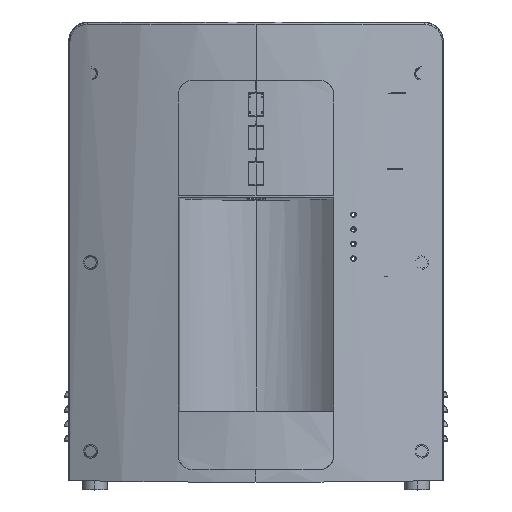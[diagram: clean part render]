
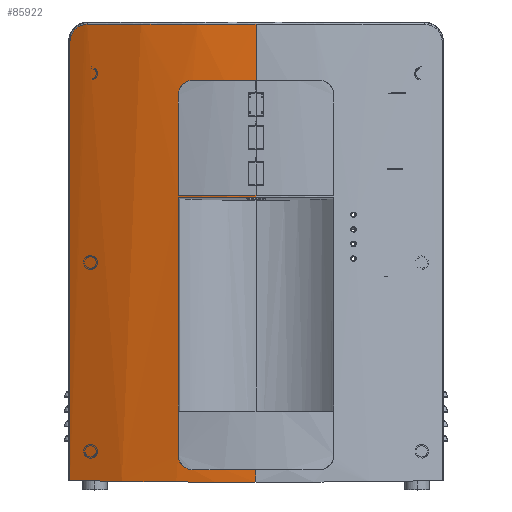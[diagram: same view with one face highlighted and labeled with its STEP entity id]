
A CAD part, top view. The second image highlights one B-rep face of the part: STEP entity #85922.
In plain terms, the highlighted cylindrical face has radius 364.375 mm (diameter 728.75 mm), a partial arc.
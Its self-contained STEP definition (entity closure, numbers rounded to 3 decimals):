
#72275=CARTESIAN_POINT('',(-191.058,666.096,
25.893));
#72276=CARTESIAN_POINT('',(-161.771,665.466,
43.927));
#72277=CARTESIAN_POINT('',(-100.494,664.54,
70.459));
#72278=CARTESIAN_POINT('',(-34.4,664.206,80.));
#72279=CARTESIAN_POINT('',(0.,664.206,80.));
#72479=DIRECTION('',(0.,1.,0.));
#72480=VECTOR('',#72479,12.794);
#72481=CARTESIAN_POINT('',(0.,664.206,80.));
#72482=LINE('',#72481,#72480);
#72497=DIRECTION('',(0.,1.,0.));
#72498=VECTOR('',#72497,1.982);
#72499=CARTESIAN_POINT('',(0.,957.,80.));
#72500=LINE('',#72499,#72498);
#72515=DIRECTION('',(0.,1.,0.));
#72516=VECTOR('',#72515,57.616);
#72517=CARTESIAN_POINT('',(0.002,1077.,
80.));
#72518=LINE('',#72517,#72516);
#72626=CARTESIAN_POINT('',(-191.058,1117.,25.893));
#72627=CARTESIAN_POINT('',(-191.066,1118.191,
25.888));
#72628=CARTESIAN_POINT('',(-190.819,1120.559,
26.04));
#72629=CARTESIAN_POINT('',(-189.674,1124.176,
26.742));
#72630=CARTESIAN_POINT('',(-187.707,1127.551,
27.936));
#72631=CARTESIAN_POINT('',(-184.969,1130.479,
29.567));
#72632=CARTESIAN_POINT('',(-181.611,1132.74,
31.525));
#72633=CARTESIAN_POINT('',(-177.683,1134.224,
33.753));
#72634=CARTESIAN_POINT('',(-174.881,1134.575,
35.295));
#72635=CARTESIAN_POINT('',(-173.358,1134.603,
36.119));
#72637=CARTESIAN_POINT('',(-64.999,1077.,
74.156));
#72638=CARTESIAN_POINT('',(-66.363,1077.,
73.908));
#72639=CARTESIAN_POINT('',(-68.975,1076.639,
73.419));
#72640=CARTESIAN_POINT('',(-72.635,1075.116,
72.693));
#72641=CARTESIAN_POINT('',(-75.79,1072.663,
72.034));
#72642=CARTESIAN_POINT('',(-78.149,1069.566,
71.523));
#72643=CARTESIAN_POINT('',(-79.665,1065.874,
71.185));
#72644=CARTESIAN_POINT('',(-80.,1063.323,
71.109));
#72645=CARTESIAN_POINT('',(-80.,1062.,
71.109));
#72647=DIRECTION('',(0.,-1.,0.));
#72648=VECTOR('',#72647,103.017);
#72649=CARTESIAN_POINT('',(-80.,1062.,
71.109));
#72650=LINE('',#72649,#72648);
#72651=DIRECTION('',(0.,-1.,0.));
#72652=VECTOR('',#72651,265.);
#72653=CARTESIAN_POINT('',(-79.997,957.,
71.11));
#72654=LINE('',#72653,#72652);
#72655=CARTESIAN_POINT('',(-80.,692.,
71.11));
#72656=CARTESIAN_POINT('',(-80.,690.677,
71.109));
#72657=CARTESIAN_POINT('',(-79.666,688.126,
71.185));
#72658=CARTESIAN_POINT('',(-78.153,684.44,
71.522));
#72659=CARTESIAN_POINT('',(-75.806,681.356,
72.031));
#72660=CARTESIAN_POINT('',(-72.677,678.913,
72.684));
#72661=CARTESIAN_POINT('',(-69.058,677.383,
73.403));
#72662=CARTESIAN_POINT('',(-66.399,677.,
73.902));
#72663=CARTESIAN_POINT('',(-65.,677.,
74.156));
#72665=DIRECTION('',(0.,-1.,0.));
#72666=VECTOR('',#72665,450.904);
#72667=CARTESIAN_POINT('',(-191.058,1117.,25.893));
#72668=LINE('',#72667,#72666);
#72669=CARTESIAN_POINT('',(-191.058,666.096,
25.893));
#72688=CARTESIAN_POINT('',(0.,1134.616,-284.375));
#72689=DIRECTION('',(0.,-1.,0.));
#72690=DIRECTION('',(0.,0.,1.));
#72691=AXIS2_PLACEMENT_3D('',#72688,#72689,#72690);
#72714=CARTESIAN_POINT('',(0.002,1077.,
80.));
#72735=CARTESIAN_POINT('',(-64.999,1077.,
74.156));
#72736=CARTESIAN_POINT('',(-57.846,1077.,
75.452));
#72737=CARTESIAN_POINT('',(-43.494,1077.,
77.614));
#72738=CARTESIAN_POINT('',(-21.777,1077.,
79.566));
#72739=CARTESIAN_POINT('',(-7.271,1077.,
80.));
#72740=CARTESIAN_POINT('',(0.002,1077.,
80.));
#72818=CARTESIAN_POINT('',(0.001,958.982,
80.));
#72819=CARTESIAN_POINT('',(-8.978,958.982,
80.));
#72820=CARTESIAN_POINT('',(-26.875,958.983,
79.339));
#72821=CARTESIAN_POINT('',(-53.634,958.981,
76.365));
#72822=CARTESIAN_POINT('',(-71.241,958.983,
73.08));
#72823=CARTESIAN_POINT('',(-80.,958.983,
71.109));
#76471=CARTESIAN_POINT('',(0.,957.,-284.375));
#76472=DIRECTION('',(0.,1.,0.));
#76473=DIRECTION('',(-0.22,0.,0.976));
#76474=AXIS2_PLACEMENT_3D('',#76471,#76472,#76473);
#76549=CARTESIAN_POINT('',(0.,677.,
80.));
#76550=CARTESIAN_POINT('',(-7.27,677.,
80.));
#76551=CARTESIAN_POINT('',(-21.778,677.,
79.566));
#76552=CARTESIAN_POINT('',(-43.494,677.,
77.613));
#76553=CARTESIAN_POINT('',(-57.847,677.,
75.452));
#76554=CARTESIAN_POINT('',(-65.,677.,
74.156));
#83272=VERTEX_POINT('',#72669);
#83273=VERTEX_POINT('',#72279);
#83314=CARTESIAN_POINT('',(0.,677.,
80.));
#83315=VERTEX_POINT('',#83314);
#83320=CARTESIAN_POINT('',(0.,957.,80.));
#83321=VERTEX_POINT('',#83320);
#83322=CARTESIAN_POINT('',(0.001,958.982,
80.));
#83323=VERTEX_POINT('',#83322);
#83328=VERTEX_POINT('',#72714);
#83329=CARTESIAN_POINT('',(0.,1134.616,
80.));
#83330=VERTEX_POINT('',#83329);
#83341=CARTESIAN_POINT('',(-191.058,1117.,25.893));
#83342=VERTEX_POINT('',#83341);
#83343=VERTEX_POINT('',#72635);
#83344=VERTEX_POINT('',#72735);
#83345=VERTEX_POINT('',#72645);
#83346=CARTESIAN_POINT('',(-80.,958.983,
71.109));
#83347=VERTEX_POINT('',#83346);
#83348=CARTESIAN_POINT('',(-79.991,957.,71.111));
#83349=VERTEX_POINT('',#83348);
#83350=CARTESIAN_POINT('',(-80.,692.,
71.11));
#83351=VERTEX_POINT('',#83350);
#83352=VERTEX_POINT('',#72663);
#85889=CARTESIAN_POINT('',(0.,0.,-284.375));
#85890=DIRECTION('',(0.,1.,0.));
#85891=DIRECTION('',(0.,0.,1.));
#85892=AXIS2_PLACEMENT_3D('',#85889,#85890,#85891);
#85893=CYLINDRICAL_SURFACE('',#85892,364.375);
#85894=ORIENTED_EDGE('',*,*,#85612,.F.);
#85896=ORIENTED_EDGE('',*,*,#85895,.F.);
#85898=ORIENTED_EDGE('',*,*,#85897,.T.);
#85900=ORIENTED_EDGE('',*,*,#85899,.F.);
#85901=ORIENTED_EDGE('',*,*,#85854,.F.);
#85903=ORIENTED_EDGE('',*,*,#85902,.F.);
#85905=ORIENTED_EDGE('',*,*,#85904,.T.);
#85907=ORIENTED_EDGE('',*,*,#85906,.T.);
#85909=ORIENTED_EDGE('',*,*,#85908,.F.);
#85910=ORIENTED_EDGE('',*,*,#85844,.F.);
#85912=ORIENTED_EDGE('',*,*,#85911,.F.);
#85914=ORIENTED_EDGE('',*,*,#85913,.T.);
#85916=ORIENTED_EDGE('',*,*,#85915,.T.);
#85918=ORIENTED_EDGE('',*,*,#85917,.F.);
#85919=ORIENTED_EDGE('',*,*,#85834,.F.);
#85920=EDGE_LOOP('',(#85894,#85896,#85898,#85900,#85901,#85903,#85905,#85907,
#85909,#85910,#85912,#85914,#85916,#85918,#85919));
#85921=FACE_OUTER_BOUND('',#85920,.F.);
#85922=ADVANCED_FACE('',(#85921),#85893,.T.);
#72280=B_SPLINE_CURVE_WITH_KNOTS('',3,(#72275,#72276,#72277,#72278,#72279),
.UNSPECIFIED.,.F.,.F.,(4,1,4),(0.,0.5,1.),.UNSPECIFIED.);
#72636=B_SPLINE_CURVE_WITH_KNOTS('',3,(#72626,#72627,#72628,#72629,#72630,
#72631,#72632,#72633,#72634,#72635),.UNSPECIFIED.,.F.,.F.,(4,1,1,1,1,1,1,4),(
0.,0.143,0.286,0.429,0.571,
0.714,0.857,1.),.UNSPECIFIED.);
#72646=B_SPLINE_CURVE_WITH_KNOTS('',3,(#72637,#72638,#72639,#72640,#72641,
#72642,#72643,#72644,#72645),.UNSPECIFIED.,.F.,.F.,(4,1,1,1,1,1,4),(0.,
0.167,0.333,0.5,0.667,0.833,
1.),.UNSPECIFIED.);
#72664=B_SPLINE_CURVE_WITH_KNOTS('',3,(#72655,#72656,#72657,#72658,#72659,
#72660,#72661,#72662,#72663),.UNSPECIFIED.,.F.,.F.,(4,1,1,1,1,1,4),(0.,
0.167,0.333,0.5,0.667,0.833,
1.),.UNSPECIFIED.);
#72692=CIRCLE('',#72691,364.375);
#72741=B_SPLINE_CURVE_WITH_KNOTS('',3,(#72735,#72736,#72737,#72738,#72739,
#72740),.UNSPECIFIED.,.F.,.F.,(4,1,1,4),(0.,0.333,
0.667,1.),.UNSPECIFIED.);
#72824=B_SPLINE_CURVE_WITH_KNOTS('',3,(#72818,#72819,#72820,#72821,#72822,
#72823),.UNSPECIFIED.,.F.,.F.,(4,1,1,4),(0.,0.333,
0.667,1.),.UNSPECIFIED.);
#76475=CIRCLE('',#76474,364.375);
#76555=B_SPLINE_CURVE_WITH_KNOTS('',3,(#76549,#76550,#76551,#76552,#76553,
#76554),.UNSPECIFIED.,.F.,.F.,(4,1,1,4),(0.,0.333,
0.667,1.),.UNSPECIFIED.);
#85612=EDGE_CURVE('',#83272,#83273,#72280,.T.);
#85834=EDGE_CURVE('',#83273,#83315,#72482,.T.);
#85844=EDGE_CURVE('',#83321,#83323,#72500,.T.);
#85854=EDGE_CURVE('',#83328,#83330,#72518,.T.);
#85895=EDGE_CURVE('',#83342,#83272,#72668,.T.);
#85897=EDGE_CURVE('',#83342,#83343,#72636,.T.);
#85899=EDGE_CURVE('',#83330,#83343,#72692,.T.);
#85902=EDGE_CURVE('',#83344,#83328,#72741,.T.);
#85904=EDGE_CURVE('',#83344,#83345,#72646,.T.);
#85906=EDGE_CURVE('',#83345,#83347,#72650,.T.);
#85908=EDGE_CURVE('',#83323,#83347,#72824,.T.);
#85911=EDGE_CURVE('',#83349,#83321,#76475,.T.);
#85913=EDGE_CURVE('',#83349,#83351,#72654,.T.);
#85915=EDGE_CURVE('',#83351,#83352,#72664,.T.);
#85917=EDGE_CURVE('',#83315,#83352,#76555,.T.);
